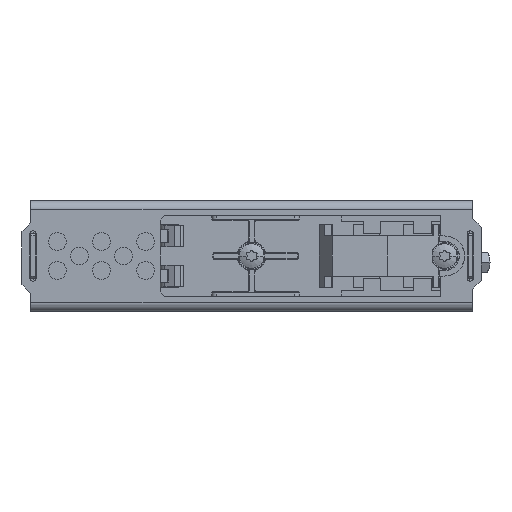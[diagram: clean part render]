
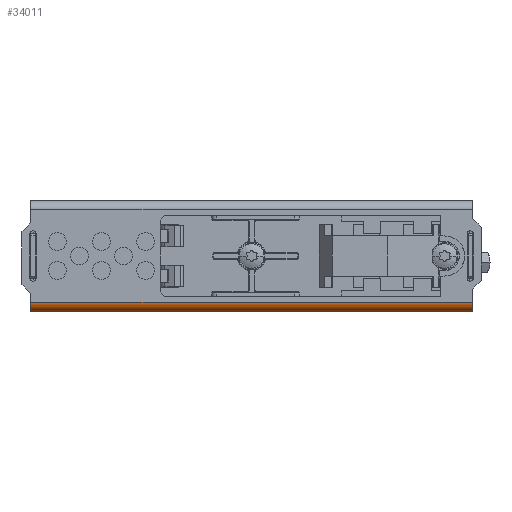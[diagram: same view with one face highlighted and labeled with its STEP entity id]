
A CAD part, left-side view. The second image highlights one B-rep face of the part: STEP entity #34011.
In plain terms, the highlighted free-form (B-spline) face has degree [5, 1] with [6, 2] control points.
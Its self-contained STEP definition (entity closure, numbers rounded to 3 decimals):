
#69=DIRECTION('',(0.,1.,0.));
#70=VECTOR('',#69,100.);
#71=CARTESIAN_POINT('',(3.,0.,-12.5));
#72=LINE('',#71,#70);
#329=CARTESIAN_POINT('',(3.,100.,-10.5));
#330=DIRECTION('',(0.,1.,0.));
#331=DIRECTION('',(0.,0.,-1.));
#332=AXIS2_PLACEMENT_3D('',#329,#330,#331);
#1561=CARTESIAN_POINT('',(3.,0.,-10.5));
#1562=DIRECTION('',(0.,-1.,0.));
#1563=DIRECTION('',(-1.,0.,0.));
#1564=AXIS2_PLACEMENT_3D('',#1561,#1562,#1563);
#1844=DIRECTION('',(0.,1.,0.));
#1845=VECTOR('',#1844,100.);
#1846=CARTESIAN_POINT('',(1.,0.,-10.5));
#1847=LINE('',#1846,#1845);
#29859=CARTESIAN_POINT('',(3.,100.,-12.5));
#29860=CARTESIAN_POINT('',(1.,100.,-10.5));
#29861=VERTEX_POINT('',#29859);
#29862=VERTEX_POINT('',#29860);
#29863=CARTESIAN_POINT('',(1.,0.,-10.5));
#29864=VERTEX_POINT('',#29863);
#29865=CARTESIAN_POINT('',(3.,0.,-12.5));
#29866=VERTEX_POINT('',#29865);
#33989=CARTESIAN_POINT('',(3.063,-2.,-12.499));
#33990=CARTESIAN_POINT('',(3.063,102.,-12.499));
#33991=CARTESIAN_POINT('',(2.41,-2.,-12.52));
#33992=CARTESIAN_POINT('',(2.41,102.,-12.52));
#33993=CARTESIAN_POINT('',(1.748,-2.,-12.273));
#33994=CARTESIAN_POINT('',(1.748,102.,-12.273));
#33995=CARTESIAN_POINT('',(1.227,-2.,-11.752));
#33996=CARTESIAN_POINT('',(1.227,102.,-11.752));
#33997=CARTESIAN_POINT('',(0.98,-2.,-11.09));
#33998=CARTESIAN_POINT('',(0.98,102.,-11.09));
#33999=CARTESIAN_POINT('',(1.001,-2.,-10.437));
#34000=CARTESIAN_POINT('',(1.001,102.,-10.437));
#34001=B_SPLINE_SURFACE_WITH_KNOTS('',5,1,((#33989,#33990),(#33991,#33992),(
#33993,#33994),(#33995,#33996),(#33997,#33998),(#33999,#34000)),.UNSPECIFIED.,
.F.,.F.,.F.,(6,6),(2,2),(-0.031,1.602),(128.36,
232.36),.UNSPECIFIED.);
#34003=ORIENTED_EDGE('',*,*,#34002,.T.);
#34005=ORIENTED_EDGE('',*,*,#34004,.F.);
#34007=ORIENTED_EDGE('',*,*,#34006,.T.);
#34008=ORIENTED_EDGE('',*,*,#33869,.T.);
#34009=EDGE_LOOP('',(#34003,#34005,#34007,#34008));
#34010=FACE_OUTER_BOUND('',#34009,.F.);
#34011=ADVANCED_FACE('',(#34010),#34001,.T.);
#333=CIRCLE('',#332,2.);
#1565=CIRCLE('',#1564,2.);
#33869=EDGE_CURVE('',#29866,#29861,#72,.T.);
#34002=EDGE_CURVE('',#29861,#29862,#333,.T.);
#34004=EDGE_CURVE('',#29864,#29862,#1847,.T.);
#34006=EDGE_CURVE('',#29864,#29866,#1565,.T.);
